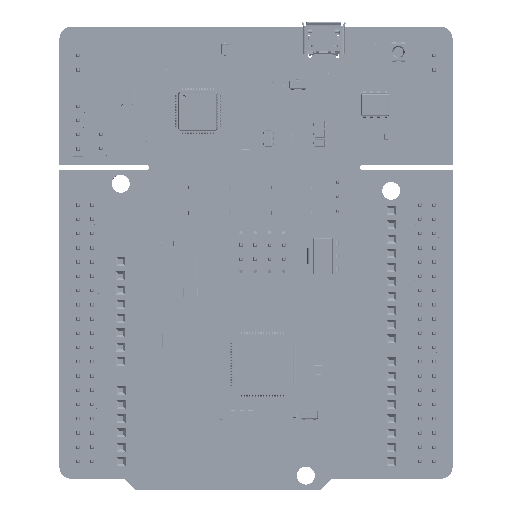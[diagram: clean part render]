
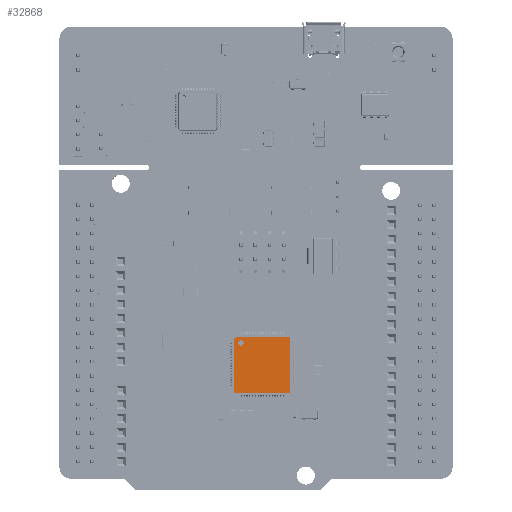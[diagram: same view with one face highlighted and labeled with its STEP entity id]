
A CAD part, top view. The second image highlights one B-rep face of the part: STEP entity #32868.
In plain terms, the highlighted planar face has unit normal (0, 0, 1) as drawn and (0, 1, 0) by its records, which use the part's own axes.
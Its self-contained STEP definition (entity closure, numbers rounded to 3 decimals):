
#30524 = VERTEX_POINT('',#30525);
#30525 = CARTESIAN_POINT('',(-3.82,1.56,-3.32));
#30531 = EDGE_CURVE('',#30532,#30524,#30534,.T.);
#30532 = VERTEX_POINT('',#30533);
#30533 = CARTESIAN_POINT('',(-3.82,1.56,-4.32));
#30534 = CIRCLE('',#30535,0.5);
#30535 = AXIS2_PLACEMENT_3D('',#30536,#30537,#30538);
#30536 = CARTESIAN_POINT('',(-3.82,1.56,-3.82));
#30537 = DIRECTION('',(0.,1.,0.));
#30538 = DIRECTION('',(0.,0.,1.));
#31107 = EDGE_CURVE('',#31108,#31110,#31112,.T.);
#31108 = VERTEX_POINT('',#31109);
#31109 = CARTESIAN_POINT('',(-5.,1.56,-4.5));
#31110 = VERTEX_POINT('',#31111);
#31111 = CARTESIAN_POINT('',(-5.,1.56,5.));
#31112 = LINE('',#31113,#31114);
#31113 = CARTESIAN_POINT('',(-5.,1.56,5.));
#31114 = VECTOR('',#31115,1.);
#31115 = DIRECTION('',(0.,0.,1.));
#31700 = VERTEX_POINT('',#31701);
#31701 = CARTESIAN_POINT('',(5.,1.56,5.));
#31707 = EDGE_CURVE('',#31110,#31700,#31708,.T.);
#31708 = LINE('',#31709,#31710);
#31709 = CARTESIAN_POINT('',(5.,1.56,5.));
#31710 = VECTOR('',#31711,1.);
#31711 = DIRECTION('',(1.,0.,0.));
#32275 = VERTEX_POINT('',#32276);
#32276 = CARTESIAN_POINT('',(5.,1.56,-5.));
#32282 = EDGE_CURVE('',#31700,#32275,#32283,.T.);
#32283 = LINE('',#32284,#32285);
#32284 = CARTESIAN_POINT('',(5.,1.56,5.));
#32285 = VECTOR('',#32286,1.);
#32286 = DIRECTION('',(0.,0.,-1.));
#32850 = VERTEX_POINT('',#32851);
#32851 = CARTESIAN_POINT('',(-4.5,1.56,-5.));
#32857 = EDGE_CURVE('',#32275,#32850,#32858,.T.);
#32858 = LINE('',#32859,#32860);
#32859 = CARTESIAN_POINT('',(5.,1.56,-5.));
#32860 = VECTOR('',#32861,1.);
#32861 = DIRECTION('',(-1.,0.,0.));
#32868 = ADVANCED_FACE('',(#32869,#32879),#32891,.T.);
#32869 = FACE_BOUND('',#32870,.T.);
#32870 = EDGE_LOOP('',(#32871,#32878));
#32871 = ORIENTED_EDGE('',*,*,#32872,.F.);
#32872 = EDGE_CURVE('',#30524,#30532,#32873,.T.);
#32873 = CIRCLE('',#32874,0.5);
#32874 = AXIS2_PLACEMENT_3D('',#32875,#32876,#32877);
#32875 = CARTESIAN_POINT('',(-3.82,1.56,-3.82));
#32876 = DIRECTION('',(0.,1.,0.));
#32877 = DIRECTION('',(0.,0.,1.));
#32878 = ORIENTED_EDGE('',*,*,#30531,.F.);
#32879 = FACE_BOUND('',#32880,.T.);
#32880 = EDGE_LOOP('',(#32881,#32882,#32888,#32889,#32890));
#32881 = ORIENTED_EDGE('',*,*,#32857,.T.);
#32882 = ORIENTED_EDGE('',*,*,#32883,.T.);
#32883 = EDGE_CURVE('',#32850,#31108,#32884,.T.);
#32884 = LINE('',#32885,#32886);
#32885 = CARTESIAN_POINT('',(-4.75,1.56,-4.75));
#32886 = VECTOR('',#32887,1.);
#32887 = DIRECTION('',(-0.707,0.,0.707));
#32888 = ORIENTED_EDGE('',*,*,#31107,.T.);
#32889 = ORIENTED_EDGE('',*,*,#31707,.T.);
#32890 = ORIENTED_EDGE('',*,*,#32282,.T.);
#32891 = PLANE('',#32892);
#32892 = AXIS2_PLACEMENT_3D('',#32893,#32894,#32895);
#32893 = CARTESIAN_POINT('',(-5.,1.56,-5.));
#32894 = DIRECTION('',(0.,1.,0.));
#32895 = DIRECTION('',(0.,0.,1.));
